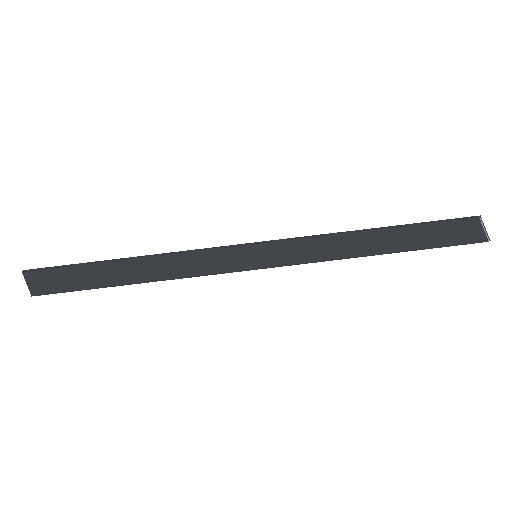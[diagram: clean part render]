
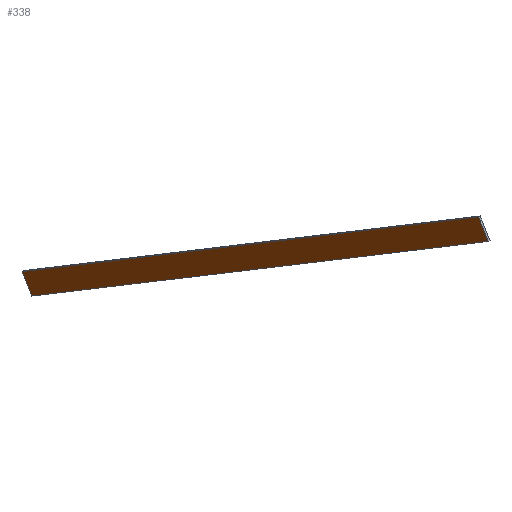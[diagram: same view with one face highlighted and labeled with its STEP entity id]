
A CAD part, isometric view. The second image highlights one B-rep face of the part: STEP entity #338.
In plain terms, the highlighted planar face has unit normal (-1, 0, 0).
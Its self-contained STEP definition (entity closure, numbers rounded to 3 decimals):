
#24 = VERTEX_POINT('',#25);
#25 = CARTESIAN_POINT('',(-203.,-828.032,1548.878));
#32 = PLANE('',#33);
#33 = AXIS2_PLACEMENT_3D('',#34,#35,#36);
#34 = CARTESIAN_POINT('',(-200.,-828.032,1548.878));
#35 = DIRECTION('',(0.,0.517,0.856));
#36 = DIRECTION('',(0.,-0.856,0.517));
#44 = PLANE('',#45);
#45 = AXIS2_PLACEMENT_3D('',#46,#47,#48);
#46 = CARTESIAN_POINT('',(-200.,-846.123,1518.916));
#47 = DIRECTION('',(0.,0.856,-0.517));
#48 = DIRECTION('',(0.,0.517,0.856));
#56 = EDGE_CURVE('',#24,#57,#59,.T.);
#57 = VERTEX_POINT('',#58);
#58 = CARTESIAN_POINT('',(-203.,-1666.975,2055.41)
  );
#59 = SURFACE_CURVE('',#60,(#64,#71),.PCURVE_S1.);
#60 = LINE('',#61,#62);
#61 = CARTESIAN_POINT('',(-203.,-828.032,1548.878));
#62 = VECTOR('',#63,1.);
#63 = DIRECTION('',(0.,-0.856,0.517));
#64 = PCURVE('',#32,#65);
#65 = DEFINITIONAL_REPRESENTATION('',(#66),#70);
#66 = LINE('',#67,#68);
#67 = CARTESIAN_POINT('',(0.,-3.));
#68 = VECTOR('',#69,1.);
#69 = DIRECTION('',(1.,0.));
#70 = ( GEOMETRIC_REPRESENTATION_CONTEXT(2) 
PARAMETRIC_REPRESENTATION_CONTEXT() REPRESENTATION_CONTEXT('2D SPACE',''
  ) );
#71 = PCURVE('',#72,#77);
#72 = PLANE('',#73);
#73 = AXIS2_PLACEMENT_3D('',#74,#75,#76);
#74 = CARTESIAN_POINT('',(-203.,-1256.549,1787.163)
  );
#75 = DIRECTION('',(1.,0.,0.));
#76 = DIRECTION('',(-0.,0.,1.));
#77 = DEFINITIONAL_REPRESENTATION('',(#78),#82);
#78 = LINE('',#79,#80);
#79 = CARTESIAN_POINT('',(-238.285,-428.517));
#80 = VECTOR('',#81,1.);
#81 = DIRECTION('',(0.517,0.856));
#82 = ( GEOMETRIC_REPRESENTATION_CONTEXT(2) 
PARAMETRIC_REPRESENTATION_CONTEXT() REPRESENTATION_CONTEXT('2D SPACE',''
  ) );
#100 = PLANE('',#101);
#101 = AXIS2_PLACEMENT_3D('',#102,#103,#104);
#102 = CARTESIAN_POINT('',(-200.,-1666.975,2055.41)
  );
#103 = DIRECTION('',(0.,-0.856,0.517));
#104 = DIRECTION('',(0.,-0.517,-0.856));
#142 = EDGE_CURVE('',#57,#143,#145,.T.);
#143 = VERTEX_POINT('',#144);
#144 = CARTESIAN_POINT('',(-203.,-1685.066,2025.448)
  );
#145 = SURFACE_CURVE('',#146,(#150,#157),.PCURVE_S1.);
#146 = LINE('',#147,#148);
#147 = CARTESIAN_POINT('',(-203.,-1666.975,2055.41)
  );
#148 = VECTOR('',#149,1.);
#149 = DIRECTION('',(0.,-0.517,-0.856));
#150 = PCURVE('',#100,#151);
#151 = DEFINITIONAL_REPRESENTATION('',(#152),#156);
#152 = LINE('',#153,#154);
#153 = CARTESIAN_POINT('',(-0.,-3.));
#154 = VECTOR('',#155,1.);
#155 = DIRECTION('',(1.,0.));
#156 = ( GEOMETRIC_REPRESENTATION_CONTEXT(2) 
PARAMETRIC_REPRESENTATION_CONTEXT() REPRESENTATION_CONTEXT('2D SPACE',''
  ) );
#157 = PCURVE('',#72,#158);
#158 = DEFINITIONAL_REPRESENTATION('',(#159),#163);
#159 = LINE('',#160,#161);
#160 = CARTESIAN_POINT('',(268.247,410.426));
#161 = VECTOR('',#162,1.);
#162 = DIRECTION('',(-0.856,0.517));
#163 = ( GEOMETRIC_REPRESENTATION_CONTEXT(2) 
PARAMETRIC_REPRESENTATION_CONTEXT() REPRESENTATION_CONTEXT('2D SPACE',''
  ) );
#181 = PLANE('',#182);
#182 = AXIS2_PLACEMENT_3D('',#183,#184,#185);
#183 = CARTESIAN_POINT('',(-200.,-1685.066,2025.448)
  );
#184 = DIRECTION('',(-0.,-0.517,-0.856));
#185 = DIRECTION('',(0.,0.856,-0.517));
#218 = EDGE_CURVE('',#143,#219,#221,.T.);
#219 = VERTEX_POINT('',#220);
#220 = CARTESIAN_POINT('',(-203.,-846.123,1518.916));
#221 = SURFACE_CURVE('',#222,(#226,#233),.PCURVE_S1.);
#222 = LINE('',#223,#224);
#223 = CARTESIAN_POINT('',(-203.,-1685.066,2025.448)
  );
#224 = VECTOR('',#225,1.);
#225 = DIRECTION('',(0.,0.856,-0.517));
#226 = PCURVE('',#181,#227);
#227 = DEFINITIONAL_REPRESENTATION('',(#228),#232);
#228 = LINE('',#229,#230);
#229 = CARTESIAN_POINT('',(0.,-3.));
#230 = VECTOR('',#231,1.);
#231 = DIRECTION('',(1.,0.));
#232 = ( GEOMETRIC_REPRESENTATION_CONTEXT(2) 
PARAMETRIC_REPRESENTATION_CONTEXT() REPRESENTATION_CONTEXT('2D SPACE',''
  ) );
#233 = PCURVE('',#72,#234);
#234 = DEFINITIONAL_REPRESENTATION('',(#235),#239);
#235 = LINE('',#236,#237);
#236 = CARTESIAN_POINT('',(238.285,428.517));
#237 = VECTOR('',#238,1.);
#238 = DIRECTION('',(-0.517,-0.856));
#239 = ( GEOMETRIC_REPRESENTATION_CONTEXT(2) 
PARAMETRIC_REPRESENTATION_CONTEXT() REPRESENTATION_CONTEXT('2D SPACE',''
  ) );
#289 = EDGE_CURVE('',#219,#24,#290,.T.);
#290 = SURFACE_CURVE('',#291,(#295,#302),.PCURVE_S1.);
#291 = LINE('',#292,#293);
#292 = CARTESIAN_POINT('',(-203.,-846.123,1518.916));
#293 = VECTOR('',#294,1.);
#294 = DIRECTION('',(0.,0.517,0.856));
#295 = PCURVE('',#44,#296);
#296 = DEFINITIONAL_REPRESENTATION('',(#297),#301);
#297 = LINE('',#298,#299);
#298 = CARTESIAN_POINT('',(0.,-3.));
#299 = VECTOR('',#300,1.);
#300 = DIRECTION('',(1.,0.));
#301 = ( GEOMETRIC_REPRESENTATION_CONTEXT(2) 
PARAMETRIC_REPRESENTATION_CONTEXT() REPRESENTATION_CONTEXT('2D SPACE',''
  ) );
#302 = PCURVE('',#72,#303);
#303 = DEFINITIONAL_REPRESENTATION('',(#304),#308);
#304 = LINE('',#305,#306);
#305 = CARTESIAN_POINT('',(-268.247,-410.426));
#306 = VECTOR('',#307,1.);
#307 = DIRECTION('',(0.856,-0.517));
#308 = ( GEOMETRIC_REPRESENTATION_CONTEXT(2) 
PARAMETRIC_REPRESENTATION_CONTEXT() REPRESENTATION_CONTEXT('2D SPACE',''
  ) );
#338 = ADVANCED_FACE('',(#339),#72,.F.);
#339 = FACE_BOUND('',#340,.F.);
#340 = EDGE_LOOP('',(#341,#342,#343,#344));
#341 = ORIENTED_EDGE('',*,*,#56,.T.);
#342 = ORIENTED_EDGE('',*,*,#142,.T.);
#343 = ORIENTED_EDGE('',*,*,#218,.T.);
#344 = ORIENTED_EDGE('',*,*,#289,.T.);
